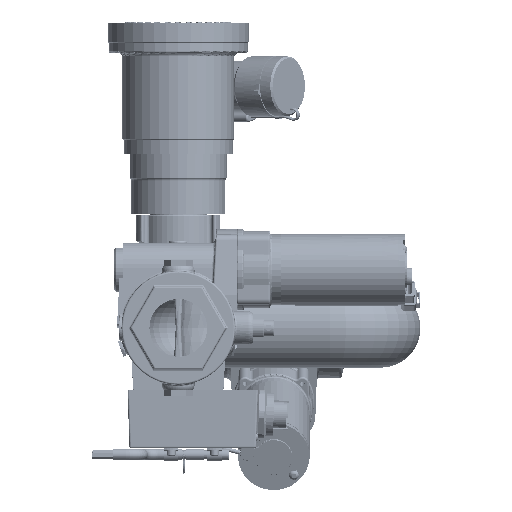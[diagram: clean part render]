
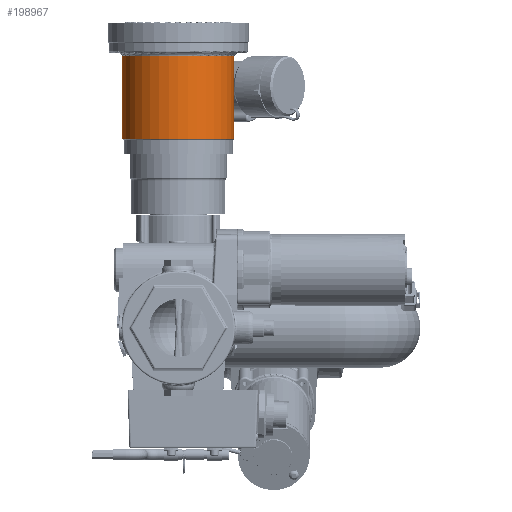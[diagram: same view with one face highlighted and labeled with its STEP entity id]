
A CAD part, front view. The second image highlights one B-rep face of the part: STEP entity #198967.
In plain terms, the highlighted cylindrical face has radius 49.212 mm (diameter 98.425 mm), a partial arc.
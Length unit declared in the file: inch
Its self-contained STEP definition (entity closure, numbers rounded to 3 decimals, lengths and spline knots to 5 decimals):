
#179350=CARTESIAN_POINT('',(0.,5.999,6.5385));
#179351=DIRECTION('',(0.,0.,1.));
#179352=DIRECTION('',(-1.,0.,0.));
#179353=AXIS2_PLACEMENT_3D('',#179350,#179351,#179352);
#179373=CARTESIAN_POINT('',(0.,5.999,6.5385));
#179374=DIRECTION('',(0.,0.,1.));
#179375=DIRECTION('',(0.,-1.,0.));
#179376=AXIS2_PLACEMENT_3D('',#179373,#179374,#179375);
#179388=DIRECTION('',(0.,0.,-1.));
#179389=VECTOR('',#179388,2.86348);
#179390=CARTESIAN_POINT('',(1.9375,5.999,9.40198));
#179391=LINE('',#179390,#179389);
#179392=DIRECTION('',(0.,0.,-1.));
#179393=VECTOR('',#179392,2.86348);
#179394=CARTESIAN_POINT('',(-1.9375,5.999,9.40198));
#179395=LINE('',#179394,#179393);
#179396=CARTESIAN_POINT('',(0.,5.999,9.40198));
#179397=DIRECTION('',(0.,0.,-1.));
#179398=DIRECTION('',(1.,0.,0.));
#179399=AXIS2_PLACEMENT_3D('',#179396,#179397,#179398);
#193782=CARTESIAN_POINT('',(0.,4.0615,6.5385));
#193783=CARTESIAN_POINT('',(1.9375,5.999,6.5385));
#193784=VERTEX_POINT('',#193782);
#193785=VERTEX_POINT('',#193783);
#193786=CARTESIAN_POINT('',(-1.9375,5.999,6.5385));
#193787=VERTEX_POINT('',#193786);
#193983=CARTESIAN_POINT('',(-1.9375,5.999,9.40198));
#193984=VERTEX_POINT('',#193983);
#193985=CARTESIAN_POINT('',(1.9375,5.999,9.40198));
#193986=VERTEX_POINT('',#193985);
#198951=CARTESIAN_POINT('',(0.,5.999,5.58695));
#198952=DIRECTION('',(0.,0.,1.));
#198953=DIRECTION('',(1.,0.,0.));
#198954=AXIS2_PLACEMENT_3D('',#198951,#198952,#198953);
#198955=CYLINDRICAL_SURFACE('',#198954,1.9375);
#198957=ORIENTED_EDGE('',*,*,#198956,.F.);
#198958=ORIENTED_EDGE('',*,*,#198939,.F.);
#198960=ORIENTED_EDGE('',*,*,#198959,.F.);
#198962=ORIENTED_EDGE('',*,*,#198961,.F.);
#198964=ORIENTED_EDGE('',*,*,#198963,.T.);
#198965=EDGE_LOOP('',(#198957,#198958,#198960,#198962,#198964));
#198966=FACE_OUTER_BOUND('',#198965,.F.);
#198967=ADVANCED_FACE('',(#198966),#198955,.T.);
#179354=CIRCLE('',#179353,1.9375);
#179377=CIRCLE('',#179376,1.9375);
#179400=CIRCLE('',#179399,1.9375);
#198939=EDGE_CURVE('',#193787,#193784,#179354,.T.);
#198956=EDGE_CURVE('',#193784,#193785,#179377,.T.);
#198959=EDGE_CURVE('',#193984,#193787,#179395,.T.);
#198961=EDGE_CURVE('',#193986,#193984,#179400,.T.);
#198963=EDGE_CURVE('',#193986,#193785,#179391,.T.);
